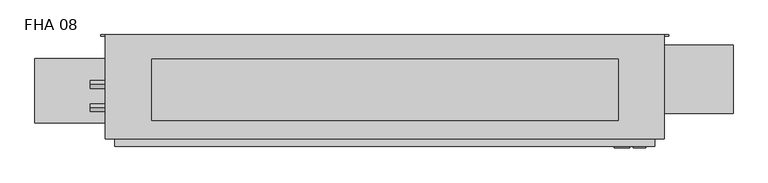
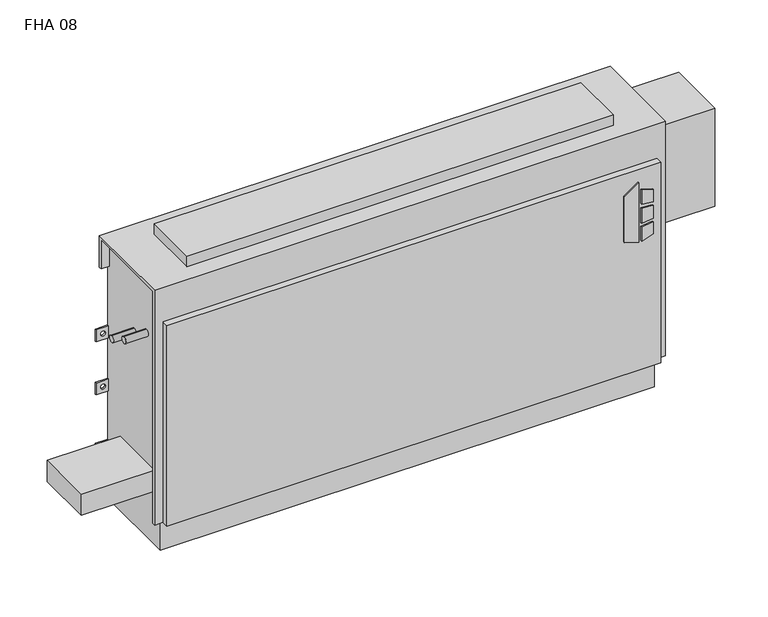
"""IFC4 building model written with IfcOpenShell, lengths in millimetres: proxy geometry, Vertical_Fan_Coil_Unit_-_FHA_-_IEC_-_2-Pipe_TS-FR_LH_2022 : FHA 08."""

from ifc_helpers import new_model, si_unit, point, frame, frame_2d, origin, place, context, project, spatial, polyline, circle_curve, trimmed, segment, composite_curve, outline, extrude, source, transform, mapped, element, save
from ifc_brep_helpers import plane_surface, revolved_surface, advanced_brep


def fha_08_348aac9a(model_context):
    return source(origin(), model_context, "Body", "SolidModel", [
        extrude(outline(polyline([(391.6086829, 627.1368862), (381.6606126, 659.3102728), (523.831537, 659.3102728), (500.8095309, 627.1368862), (391.6086829, 627.1368862)])), frame((0.0, 9.525, 0.0), z_axis=(0.0, 1.0, 0.0), x_axis=(0.0, 0.0, 1.0)), (0.0, 0.0, 1.0), 3.175),
        extrude(outline(polyline([(470.6079683, 666.0686058), (467.4055757, 692.15), (496.6344168, 692.15), (504.6988318, 666.0686058), (470.6079683, 666.0686058)])), frame((0.0, 9.525, 0.0), z_axis=(0.0, 1.0, 0.0), x_axis=(0.0, 0.0, 1.0)), (0.0, 0.0, 1.0), 3.175),
        extrude(outline(polyline([(418.7444414, 692.15), (415.0789404, 666.0686058), (381.6606126, 666.0686058), (390.2948498, 692.15), (418.7444414, 692.15)])), frame((0.0, 9.525, 0.0), z_axis=(0.0, 1.0, 0.0), x_axis=(0.0, 0.0, 1.0)), (0.0, 0.0, 1.0), 3.175),
        extrude(outline(polyline([(458.0596028, 692.15), (460.3414292, 666.0686058), (424.4038806, 666.0686058), (427.1451456, 692.15), (458.0596028, 692.15)])), frame((0.0, 9.525, 0.0), z_axis=(0.0, 1.0, 0.0), x_axis=(0.0, 0.0, 1.0)), (0.0, 0.0, 1.0), 3.175),
        extrude(outline(composite_curve([segment(trimmed(circle_curve(frame_2d((-469.9, 128.5875)), 9.525), [point((-479.425, 128.5875))], [point((-460.375, 128.5875))], False, "CARTESIAN"), True, "CONTINUOUS"), segment(trimmed(circle_curve(frame_2d((-469.9, 128.5875)), 9.525), [point((-460.375, 128.5875))], [point((-479.425, 128.5875))], False, "CARTESIAN"), True, "CONTINUOUS")], self_intersect=False)), frame((0.0, 0.0, 101.6), z_axis=(0.0, 0.0, 1.0), x_axis=(1.0, 0.0, 0.0)), (0.0, 0.0, 1.0), 25.4),
        extrude(outline(polyline([(-571.5, 61.9125), (-571.5, 195.2625), (-406.4, 195.2625), (-406.4, 61.9125), (-571.5, 61.9125)])), frame((0.0, 0.0, 127.0), z_axis=(0.0, 0.0, 1.0), x_axis=(1.0, 0.0, 0.0)), (0.0, 0.0, 1.0), 50.8),
        extrude(outline(polyline([(635.0, 193.675), (635.0, 66.675), (-330.2, 66.675), (-330.2, 193.675), (635.0, 193.675)])), frame((0.0, 0.0, 635.0), z_axis=(0.0, 0.0, 1.0), x_axis=(1.0, 0.0, 0.0)), (0.0, 0.0, 1.0), 25.4),
        extrude(outline(composite_curve([segment(trimmed(circle_curve(frame_2d((93.1926, 488.0102)), 7.9375), [point((93.1926, 495.9477))], [point((93.1926, 480.0727))], False, "CARTESIAN"), True, "CONTINUOUS"), segment(trimmed(circle_curve(frame_2d((93.1926, 488.0102)), 7.9375), [point((93.1926, 480.0727))], [point((93.1926, 495.9477))], False, "CARTESIAN"), True, "CONTINUOUS")], self_intersect=False)), frame((-457.2, 0.0, 0.0), z_axis=(1.0, 0.0, 0.0), x_axis=(0.0, 1.0, 0.0)), (0.0, 0.0, 1.0), 50.8),
        extrude(outline(composite_curve([segment(trimmed(circle_curve(frame_2d((141.3002, 461.3402)), 7.9375), [point((141.3002, 469.2777))], [point((141.3002, 453.4027))], False, "CARTESIAN"), True, "CONTINUOUS"), segment(trimmed(circle_curve(frame_2d((141.3002, 461.3402)), 7.9375), [point((141.3002, 453.4027))], [point((141.3002, 469.2777))], False, "CARTESIAN"), True, "CONTINUOUS")], self_intersect=False)), frame((-457.2, 0.0, 0.0), z_axis=(1.0, 0.0, 0.0), x_axis=(0.0, 1.0, 0.0)), (0.0, 0.0, 1.0), 50.8),
        extrude(outline(polyline([(873.125, 223.266), (873.125, 81.534), (711.2, 81.534), (711.2, 223.266), (873.125, 223.266)])), frame((0.0, 0.0, 349.25), z_axis=(0.0, 0.0, 1.0), x_axis=(1.0, 0.0, 0.0)), (0.0, 0.0, 1.0), 234.95),
        advanced_brep(
        [(730.25, 244.475, 635.0), (-425.45, 244.475, 635.0), (-425.45, 28.575, 635.0), (730.25, 28.575, 635.0), (-406.4, 244.475, 0.0), (711.2, 244.475, 0.0), (711.2, 38.1, 0.0), (-406.4, 38.1, 0.0), (730.25, 244.475, 558.8), (711.2, 244.475, 558.8), (711.2, 244.475, 414.3375), (739.775, 244.475, 414.3375), (739.775, 244.475, 385.7625), (711.2, 244.475, 385.7625), (711.2, 244.475, 287.3375), (739.775, 244.475, 287.3375), (739.775, 244.475, 258.7625), (711.2, 244.475, 258.7625), (711.2, 244.475, 141.2875), (739.775, 244.475, 141.2875), (739.775, 244.475, 112.7125), (711.2, 244.475, 112.7125), (-406.4, 244.475, 112.7125), (-434.975, 244.475, 112.7125), (-434.975, 244.475, 141.2875), (-406.4, 244.475, 141.2875), (-406.4, 244.475, 258.7625), (-434.975, 244.475, 258.7625), (-434.975, 244.475, 287.3375), (-406.4, 244.475, 287.3375), (-406.4, 244.475, 385.7625), (-434.975, 244.475, 385.7625), (-434.975, 244.475, 414.3375), (-406.4, 244.475, 414.3375), (-406.4, 244.475, 558.8), (-425.45, 244.475, 558.8), (729.4626, 244.475, 127.0), (718.3374, 244.475, 127.0), (-413.5374, 244.475, 127.0), (-424.6626, 244.475, 127.0), (729.4626, 244.475, 273.05), (718.3374, 244.475, 273.05), (-413.5374, 244.475, 273.05), (-424.6626, 244.475, 273.05), (729.4626, 244.475, 400.05), (718.3374, 244.475, 400.05), (-413.5374, 244.475, 400.05), (-424.6626, 244.475, 400.05), (-425.45, 238.125, 558.8), (-425.45, 238.125, 628.65), (-425.45, 34.925, 628.65), (-425.45, 34.925, 73.025), (-425.45, 28.575, 73.025), (711.2, 12.7, 552.45), (-406.4, 12.7, 552.45), (-406.4, 12.7, 73.025), (711.2, 12.7, 73.025), (730.25, 28.575, 73.025), (730.25, 34.925, 73.025), (730.25, 34.925, 628.65), (730.25, 238.125, 628.65), (730.25, 238.125, 558.8), (-406.4, 28.575, 73.025), (-406.4, 28.575, 552.45), (711.2, 28.575, 552.45), (711.2, 28.575, 73.025), (-406.4, 34.925, 73.025), (-406.4, 38.1, 73.025), (711.2, 38.1, 73.025), (711.2, 34.925, 73.025), (711.2, 241.3, 112.7125), (711.2, 241.3, 141.2875), (711.2, 241.3, 258.7625), (711.2, 241.3, 287.3375), (711.2, 241.3, 385.7625), (711.2, 241.3, 414.3375), (711.2, 238.125, 558.8), (711.2, 238.125, 628.65), (711.2, 34.925, 628.65), (-406.4, 34.925, 628.65), (-406.4, 238.125, 628.65), (-406.4, 238.125, 558.8), (-406.4, 241.3, 414.3375), (-406.4, 241.3, 385.7625), (-406.4, 241.3, 287.3375), (-406.4, 241.3, 258.7625), (-406.4, 241.3, 141.2875), (-406.4, 241.3, 112.7125), (739.775, 241.3, 112.7125), (739.775, 241.3, 141.2875), (718.3374, 241.3, 127.0), (729.4626, 241.3, 127.0), (739.775, 241.3, 258.7625), (739.775, 241.3, 287.3375), (718.3374, 241.3, 273.05), (729.4626, 241.3, 273.05), (739.775, 241.3, 385.7625), (739.775, 241.3, 414.3375), (718.3374, 241.3, 400.05), (729.4626, 241.3, 400.05), (-434.975, 241.3, 141.2875), (-434.975, 241.3, 112.7125), (-424.6626, 241.3, 127.0), (-413.5374, 241.3, 127.0), (-434.975, 241.3, 287.3375), (-434.975, 241.3, 258.7625), (-424.6626, 241.3, 273.05), (-413.5374, 241.3, 273.05), (-434.975, 241.3, 414.3375), (-434.975, 241.3, 385.7625), (-424.6626, 241.3, 400.05), (-413.5374, 241.3, 400.05)],
        [
            (0, 1),
            (1, 2),
            (2, 3),
            (3, 0),
            (4, 5),
            (5, 6),
            (6, 7),
            (7, 4),
            (0, 8),
            (8, 9),
            (9, 10),
            (10, 11),
            (11, 12),
            (12, 13),
            (13, 14),
            (14, 15),
            (15, 16),
            (16, 17),
            (17, 18),
            (18, 19),
            (19, 20),
            (20, 21),
            (21, 5),
            (4, 22),
            (22, 23),
            (23, 24),
            (24, 25),
            (25, 26),
            (26, 27),
            (27, 28),
            (28, 29),
            (29, 30),
            (30, 31),
            (31, 32),
            (32, 33),
            (33, 34),
            (34, 35),
            (35, 1),
            (36, 37, circle_curve(frame((723.9, 244.475, 127.0), z_axis=(0.0, -1.0, 0.0), x_axis=(-1.0, 0.0, 0.0)), 5.5626)),
            (37, 36, circle_curve(frame((723.9, 244.475, 127.0), z_axis=(0.0, -1.0, 0.0), x_axis=(-1.0, 0.0, 0.0)), 5.5626)),
            (38, 39, circle_curve(frame((-419.1, 244.475, 127.0), z_axis=(0.0, -1.0, 0.0), x_axis=(-1.0, 0.0, 0.0)), 5.5626)),
            (39, 38, circle_curve(frame((-419.1, 244.475, 127.0), z_axis=(0.0, -1.0, 0.0), x_axis=(-1.0, 0.0, 0.0)), 5.5626)),
            (40, 41, circle_curve(frame((723.9, 244.475, 273.05), z_axis=(0.0, -1.0, 0.0), x_axis=(-1.0, 0.0, 0.0)), 5.5626)),
            (41, 40, circle_curve(frame((723.9, 244.475, 273.05), z_axis=(0.0, -1.0, 0.0), x_axis=(-1.0, 0.0, 0.0)), 5.5626)),
            (42, 43, circle_curve(frame((-419.1, 244.475, 273.05), z_axis=(0.0, -1.0, 0.0), x_axis=(-1.0, 0.0, 0.0)), 5.5626)),
            (43, 42, circle_curve(frame((-419.1, 244.475, 273.05), z_axis=(0.0, -1.0, 0.0), x_axis=(-1.0, 0.0, 0.0)), 5.5626)),
            (44, 45, circle_curve(frame((723.9, 244.475, 400.05), z_axis=(0.0, -1.0, 0.0), x_axis=(-1.0, 0.0, 0.0)), 5.5626)),
            (45, 44, circle_curve(frame((723.9, 244.475, 400.05), z_axis=(0.0, -1.0, 0.0), x_axis=(-1.0, 0.0, 0.0)), 5.5626)),
            (46, 47, circle_curve(frame((-419.1, 244.475, 400.05), z_axis=(0.0, -1.0, 0.0), x_axis=(-1.0, 0.0, 0.0)), 5.5626)),
            (47, 46, circle_curve(frame((-419.1, 244.475, 400.05), z_axis=(0.0, -1.0, 0.0), x_axis=(-1.0, 0.0, 0.0)), 5.5626)),
            (35, 48),
            (48, 49),
            (49, 50),
            (50, 51),
            (51, 52),
            (52, 2),
            (53, 54),
            (54, 55),
            (55, 56),
            (56, 53),
            (3, 57),
            (57, 58),
            (58, 59),
            (59, 60),
            (60, 61),
            (61, 8),
            (52, 62),
            (62, 63),
            (63, 64),
            (64, 65),
            (65, 57),
            (53, 64),
            (63, 54),
            (55, 62),
            (51, 66),
            (66, 67),
            (67, 68),
            (68, 69),
            (69, 58),
            (65, 56),
            (6, 68),
            (67, 7),
            (21, 70),
            (70, 71),
            (71, 18),
            (17, 72),
            (72, 73),
            (73, 14),
            (13, 74),
            (74, 75),
            (75, 10),
            (9, 76),
            (76, 77),
            (77, 78),
            (78, 69),
            (66, 79),
            (79, 80),
            (80, 81),
            (81, 34),
            (33, 82),
            (82, 83),
            (83, 30),
            (29, 84),
            (84, 85),
            (85, 26),
            (25, 86),
            (86, 87),
            (87, 22),
            (76, 61),
            (60, 77),
            (78, 59),
            (50, 79),
            (81, 48),
            (80, 49),
            (70, 88),
            (88, 89),
            (89, 71),
            (90, 91, circle_curve(frame((723.9, 241.3, 127.0), z_axis=(0.0, 1.0, 0.0), x_axis=(-1.0, 0.0, 0.0)), 5.5626)),
            (91, 90, circle_curve(frame((723.9, 241.3, 127.0), z_axis=(0.0, 1.0, 0.0), x_axis=(-1.0, 0.0, 0.0)), 5.5626)),
            (92, 93),
            (93, 73),
            (72, 92),
            (94, 95, circle_curve(frame((723.9, 241.3, 273.05), z_axis=(0.0, 1.0, 0.0), x_axis=(-1.0, 0.0, 0.0)), 5.5626)),
            (95, 94, circle_curve(frame((723.9, 241.3, 273.05), z_axis=(0.0, 1.0, 0.0), x_axis=(-1.0, 0.0, 0.0)), 5.5626)),
            (96, 97),
            (97, 75),
            (74, 96),
            (98, 99, circle_curve(frame((723.9, 241.3, 400.05), z_axis=(0.0, 1.0, 0.0), x_axis=(-1.0, 0.0, 0.0)), 5.5626)),
            (99, 98, circle_curve(frame((723.9, 241.3, 400.05), z_axis=(0.0, 1.0, 0.0), x_axis=(-1.0, 0.0, 0.0)), 5.5626)),
            (100, 101),
            (101, 87),
            (86, 100),
            (102, 103, circle_curve(frame((-419.1, 241.3, 127.0), z_axis=(0.0, 1.0, 0.0), x_axis=(-1.0, 0.0, 0.0)), 5.5626)),
            (103, 102, circle_curve(frame((-419.1, 241.3, 127.0), z_axis=(0.0, 1.0, 0.0), x_axis=(-1.0, 0.0, 0.0)), 5.5626)),
            (84, 104),
            (104, 105),
            (105, 85),
            (106, 107, circle_curve(frame((-419.1, 241.3, 273.05), z_axis=(0.0, 1.0, 0.0), x_axis=(-1.0, 0.0, 0.0)), 5.5626)),
            (107, 106, circle_curve(frame((-419.1, 241.3, 273.05), z_axis=(0.0, 1.0, 0.0), x_axis=(-1.0, 0.0, 0.0)), 5.5626)),
            (108, 109),
            (109, 83),
            (82, 108),
            (110, 111, circle_curve(frame((-419.1, 241.3, 400.05), z_axis=(0.0, 1.0, 0.0), x_axis=(-1.0, 0.0, 0.0)), 5.5626)),
            (111, 110, circle_curve(frame((-419.1, 241.3, 400.05), z_axis=(0.0, 1.0, 0.0), x_axis=(-1.0, 0.0, 0.0)), 5.5626)),
            (89, 19),
            (88, 20),
            (16, 92),
            (93, 15),
            (12, 96),
            (97, 11),
            (24, 100),
            (101, 23),
            (105, 27),
            (104, 28),
            (32, 108),
            (109, 31),
            (90, 37),
            (36, 91),
            (102, 39),
            (38, 103),
            (94, 41),
            (40, 95),
            (106, 43),
            (42, 107),
            (98, 45),
            (44, 99),
            (110, 47),
            (46, 111),
        ],
        [
            plane_surface(frame((-425.45, 244.475, 635.0), z_axis=(0.0, 0.0, 1.0), x_axis=(-1.0, 0.0, 0.0))),
            plane_surface(frame((-425.45, 244.475, 0.0), z_axis=(0.0, 0.0, -1.0), x_axis=(1.0, 0.0, 0.0))),
            plane_surface(frame((730.25, 244.475, 635.0), z_axis=(0.0, 1.0, 0.0), x_axis=(0.0, 0.0, -1.0))),
            plane_surface(frame((-425.45, 244.475, 635.0), z_axis=(-1.0, 0.0, 0.0), x_axis=(0.0, 0.0, -1.0))),
            plane_surface(frame((-425.45, 12.7, 635.0), z_axis=(0.0, -1.0, 0.0), x_axis=(0.0, 0.0, -1.0))),
            plane_surface(frame((730.25, 12.7, 635.0), z_axis=(1.0, 0.0, 0.0), x_axis=(0.0, 0.0, -1.0))),
            plane_surface(frame((-704.85, 28.575, 635.0), z_axis=(0.0, -1.0, 0.0), x_axis=(1.0, 0.0, 0.0))),
            plane_surface(frame((-704.85, 28.575, 552.45), z_axis=(0.0, 0.0, 1.0), x_axis=(1.0, 0.0, 0.0))),
            plane_surface(frame((-425.45, 12.7, 73.025), z_axis=(0.0, 0.0, -1.0), x_axis=(1.0, 0.0, 0.0))),
            plane_surface(frame((-425.45, 38.1, 73.025), z_axis=(0.0, -1.0, 0.0), x_axis=(1.0, 0.0, 0.0))),
            plane_surface(frame((711.2, 28.575, 73.025), z_axis=(1.0, 0.0, 0.0), x_axis=(0.0, -1.0, 0.0))),
            plane_surface(frame((-406.4, 28.575, 552.45), z_axis=(-1.0, 0.0, 0.0), x_axis=(0.0, -1.0, 0.0))),
            plane_surface(frame((711.2, 244.475, 0.0), z_axis=(1.0, 0.0, 0.0), x_axis=(0.0, -1.0, 0.0))),
            plane_surface(frame((-406.4, 244.475, 73.025), z_axis=(-1.0, 0.0, 0.0), x_axis=(0.0, -1.0, 0.0))),
            plane_surface(frame((711.2, 238.125, 628.65), z_axis=(0.0, -1.0, 0.0), x_axis=(1.0, 0.0, 0.0))),
            plane_surface(frame((711.2, 238.125, 558.8), z_axis=(0.0, 0.0, -1.0), x_axis=(1.0, 0.0, 0.0))),
            plane_surface(frame((711.2, 34.925, 73.025), z_axis=(0.0, 1.0, 0.0), x_axis=(1.0, 0.0, 0.0))),
            plane_surface(frame((711.2, 34.925, 628.65), z_axis=(0.0, 0.0, -1.0), x_axis=(1.0, 0.0, 0.0))),
            plane_surface(frame((-406.4, 34.925, 628.65), z_axis=(0.0, 1.0, 0.0), x_axis=(-1.0, 0.0, 0.0))),
            plane_surface(frame((-406.4, 244.475, 558.8), z_axis=(0.0, 0.0, -1.0), x_axis=(-1.0, 0.0, 0.0))),
            plane_surface(frame((-406.4, 238.125, 558.8), z_axis=(0.0, -1.0, 0.0), x_axis=(-1.0, 0.0, 0.0))),
            plane_surface(frame((-406.4, 238.125, 628.65), z_axis=(0.0, 0.0, -1.0), x_axis=(-1.0, 0.0, 0.0))),
            plane_surface(frame((739.775, 241.3, 141.2875), z_axis=(0.0, -1.0, 0.0), x_axis=(-1.0, 0.0, 0.0))),
            plane_surface(frame((711.2, 244.475, 141.2875), z_axis=(0.0, 0.0, 1.0), x_axis=(0.0, -1.0, 0.0))),
            plane_surface(frame((739.775, 244.475, 141.2875), z_axis=(1.0, 0.0, 0.0), x_axis=(0.0, -1.0, 0.0))),
            plane_surface(frame((739.775, 244.475, 112.7125), z_axis=(0.0, 0.0, -1.0), x_axis=(0.0, -1.0, 0.0))),
            plane_surface(frame((739.775, 244.475, 258.7625), z_axis=(0.0, 0.0, -1.0), x_axis=(0.0, -1.0, 0.0))),
            plane_surface(frame((711.2, 244.475, 287.3375), z_axis=(0.0, 0.0, 1.0), x_axis=(0.0, -1.0, 0.0))),
            plane_surface(frame((739.775, 244.475, 287.3375), z_axis=(1.0, 0.0, 0.0), x_axis=(0.0, -1.0, 0.0))),
            plane_surface(frame((739.775, 244.475, 385.7625), z_axis=(0.0, 0.0, -1.0), x_axis=(0.0, -1.0, 0.0))),
            plane_surface(frame((711.2, 244.475, 414.3375), z_axis=(0.0, 0.0, 1.0), x_axis=(0.0, -1.0, 0.0))),
            plane_surface(frame((739.775, 244.475, 414.3375), z_axis=(1.0, 0.0, 0.0), x_axis=(0.0, -1.0, 0.0))),
            plane_surface(frame((-434.975, 244.475, 141.2875), z_axis=(0.0, 0.0, 1.0), x_axis=(0.0, -1.0, 0.0))),
            plane_surface(frame((-406.4, 244.475, 112.7125), z_axis=(0.0, 0.0, -1.0), x_axis=(0.0, -1.0, 0.0))),
            plane_surface(frame((-434.975, 244.475, 112.7125), z_axis=(-1.0, 0.0, 0.0), x_axis=(0.0, -1.0, 0.0))),
            plane_surface(frame((-406.4, 244.475, 258.7625), z_axis=(0.0, 0.0, -1.0), x_axis=(0.0, -1.0, 0.0))),
            plane_surface(frame((-434.975, 244.475, 258.7625), z_axis=(-1.0, 0.0, 0.0), x_axis=(0.0, -1.0, 0.0))),
            plane_surface(frame((-434.975, 244.475, 287.3375), z_axis=(0.0, 0.0, 1.0), x_axis=(0.0, -1.0, 0.0))),
            plane_surface(frame((-434.975, 244.475, 414.3375), z_axis=(0.0, 0.0, 1.0), x_axis=(0.0, -1.0, 0.0))),
            plane_surface(frame((-406.4, 244.475, 385.7625), z_axis=(0.0, 0.0, -1.0), x_axis=(0.0, -1.0, 0.0))),
            plane_surface(frame((-434.975, 244.475, 385.7625), z_axis=(-1.0, 0.0, 0.0), x_axis=(0.0, -1.0, 0.0))),
            revolved_surface(polyline([(718.3374, 241.3, 127.0), (718.3374, 244.475, 127.0)]), (723.9, 244.475, 127.0), (0.0, -1.0, 0.0)),
            revolved_surface(polyline([(-424.6626, 241.3, 127.0), (-424.6626, 244.475, 127.0)]), (-419.1, 244.475, 127.0), (0.0, -1.0, 0.0)),
            revolved_surface(polyline([(718.3374, 241.3, 273.05), (718.3374, 244.475, 273.05)]), (723.9, 244.475, 273.05), (0.0, -1.0, 0.0)),
            revolved_surface(polyline([(-424.6626, 241.3, 273.05), (-424.6626, 244.475, 273.05)]), (-419.1, 244.475, 273.05), (0.0, -1.0, 0.0)),
            revolved_surface(polyline([(718.3374, 241.3, 400.05), (718.3374, 244.475, 400.05)]), (723.9, 244.475, 400.05), (0.0, -1.0, 0.0)),
            revolved_surface(polyline([(-424.6626, 241.3, 400.05), (-424.6626, 244.475, 400.05)]), (-419.1, 244.475, 400.05), (0.0, -1.0, 0.0)),
        ],
        [
            (0, [[1, 2, 3, 4]]),
            (1, [[5, 6, 7, 8]]),
            (2, [[-1, 9, 10, 11, 12, 13, 14, 15, 16, 17, 18, 19, 20, 21, 22, 23, -5, 24, 25, 26, 27, 28, 29, 30, 31, 32, 33, 34, 35, 36, 37, 38], [39, 40], [41, 42], [43, 44], [45, 46], [47, 48], [49, 50]]),
            (3, [[-2, -38, 51, 52, 53, 54, 55, 56]]),
            (4, [[57, 58, 59, 60]]),
            (5, [[-4, 61, 62, 63, 64, 65, 66, -9]]),
            (6, [[-3, -56, 67, 68, 69, 70, 71, -61]]),
            (7, [[-57, 72, -69, 73]]),
            (8, [[-59, 74, -67, -55, 75, 76, 77, 78, 79, -62, -71, 80]]),
            (9, [[-7, 81, -77, 82]]),
            (10, [[-70, -72, -60, -80]]),
            (11, [[-68, -74, -58, -73]]),
            (12, [[-6, -23, 83, 84, 85, -19, 86, 87, 88, -15, 89, 90, 91, -11, 92, 93, 94, 95, -78, -81]]),
            (13, [[-8, -82, -76, 96, 97, 98, 99, -36, 100, 101, 102, -32, 103, 104, 105, -28, 106, 107, 108, -24]]),
            (14, [[-93, 109, -65, 110]]),
            (15, [[-92, -10, -66, -109]]),
            (16, [[-95, 111, -63, -79]]),
            (17, [[-94, -110, -64, -111]]),
            (18, [[-96, -75, -54, 112]]),
            (19, [[-99, 113, -51, -37]]),
            (20, [[-98, 114, -52, -113]]),
            (21, [[-97, -112, -53, -114]]),
            (22, [[115, 116, 117, -84], [118, 119]]),
            (22, [[120, 121, -87, 122], [123, 124]]),
            (22, [[125, 126, -90, 127], [128, 129]]),
            (22, [[130, 131, -107, 132], [133, 134]]),
            (22, [[135, 136, 137, -104], [138, 139]]),
            (22, [[140, 141, -101, 142], [143, 144]]),
            (23, [[-117, 145, -20, -85]]),
            (24, [[-116, 146, -21, -145]]),
            (25, [[-115, -83, -22, -146]]),
            (26, [[-122, -86, -18, 147]]),
            (27, [[-121, 148, -16, -88]]),
            (28, [[-120, -147, -17, -148]]),
            (29, [[-127, -89, -14, 149]]),
            (30, [[-126, 150, -12, -91]]),
            (31, [[-125, -149, -13, -150]]),
            (32, [[-132, -106, -27, 151]]),
            (33, [[-131, 152, -25, -108]]),
            (34, [[-130, -151, -26, -152]]),
            (35, [[-137, 153, -29, -105]]),
            (36, [[-136, 154, -30, -153]]),
            (37, [[-135, -103, -31, -154]]),
            (38, [[-142, -100, -35, 155]]),
            (39, [[-141, 156, -33, -102]]),
            (40, [[-140, -155, -34, -156]]),
            (41, [[157, -39, 158, -118]]),
            (41, [[-157, -119, -158, -40]]),
            (42, [[159, -41, 160, -133]]),
            (42, [[-159, -134, -160, -42]]),
            (43, [[161, -43, 162, -123]]),
            (43, [[-161, -124, -162, -44]]),
            (44, [[163, -45, 164, -138]]),
            (44, [[-163, -139, -164, -46]]),
            (45, [[165, -47, 166, -128]]),
            (45, [[-165, -129, -166, -48]]),
            (46, [[167, -49, 168, -143]]),
            (46, [[-167, -144, -168, -50]]),
        ],
    ),
    ])


if __name__ == "__main__":
    model = new_model("IFC4")
    model_context = context("Model", 3, world=origin())
    ifc_project = project(units=[si_unit("LENGTHUNIT", "METRE", prefix="MILLI")], contexts=[model_context])
    site = spatial("IfcSite", under=ifc_project)
    building = spatial("IfcBuilding", under=site)
    placement = place(None, origin())
    fha_08_shape = fha_08_348aac9a(model_context)
    element("IfcBuildingElementProxy", 1, Name="Vertical_Fan_Coil_Unit_-_FHA_-_IEC_-_2-Pipe_TS-FR_LH_2022 : FHA 08", ObjectType="Vertical_Fan_Coil_Unit_-_FHA_-_IEC_-_2-Pipe_TS-FR_LH_2022 : FHA 08", at=placement, inside=building, context=model_context, shape_type="MappedRepresentation", body=[
        mapped(fha_08_shape, transform((0.0, 0.0, 0.0), x_axis=(1.0, 0.0, 0.0), y_axis=(0.0, 1.0, 0.0), z_axis=(0.0, 0.0, 1.0))),
    ])
    save(model, "model.ifc")
